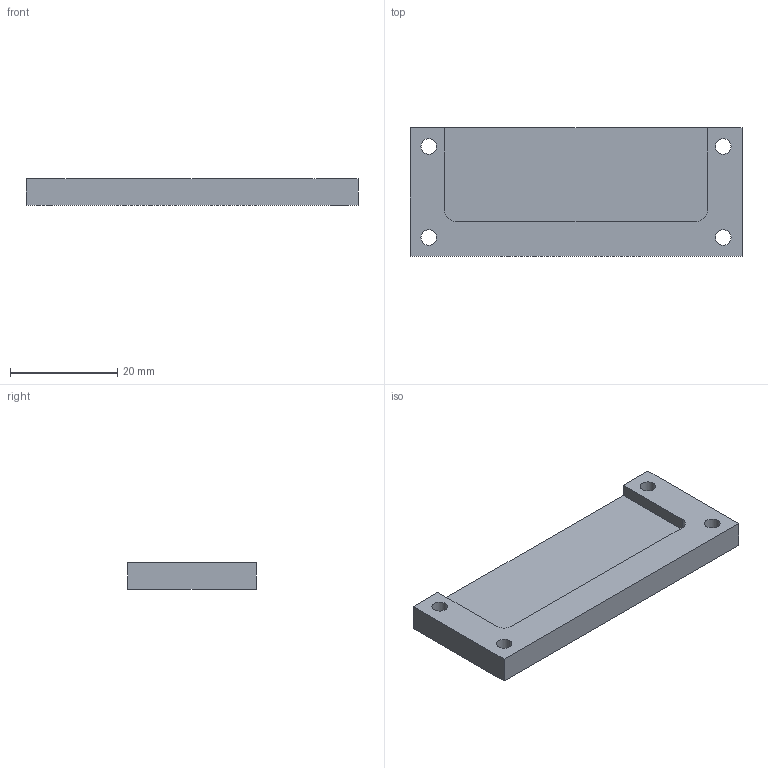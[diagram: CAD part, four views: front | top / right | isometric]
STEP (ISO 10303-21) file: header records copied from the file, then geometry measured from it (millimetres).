
FILE_DESCRIPTION (( 'STEP AP214' ), '1' );
FILE_NAME ('support_bande_frottement_maquette.STEP', '2016-07-11T15:13:51', ( 'utilisateur' ), ( 'Microsoft' ), 'SwSTEP 2.0', 'SolidWorks 2015', '' );
FILE_SCHEMA (( 'AUTOMOTIVE_DESIGN' ));
Length unit declared in the file: metre
Products named in the file (1): support_bande_frottement_maquette
Bounding box: 62 x 24 x 5 mm (x, y, z)
Volume: 5339.6 mm3; surface area: 4041.9 mm2
Topology: 1 solids, 1 shells, 16 faces, 42 edges, 28 vertices
Faces by surface type: plane 10, cylinder 6
Full cylindrical faces by diameter (mm): 2.9 x4
Entity records: 528 total; most frequent: DIRECTION 84, CARTESIAN_POINT 83, ORIENTED_EDGE 76, EDGE_CURVE 38, AXIS2_PLACEMENT_3D 29, VERTEX_POINT 28, EDGE_LOOP 28, VECTOR 26
